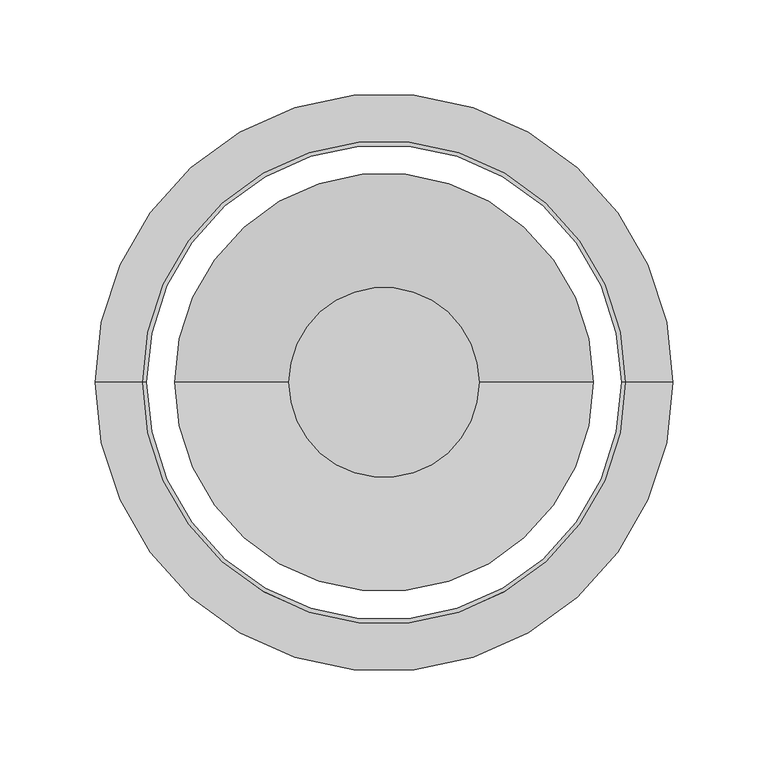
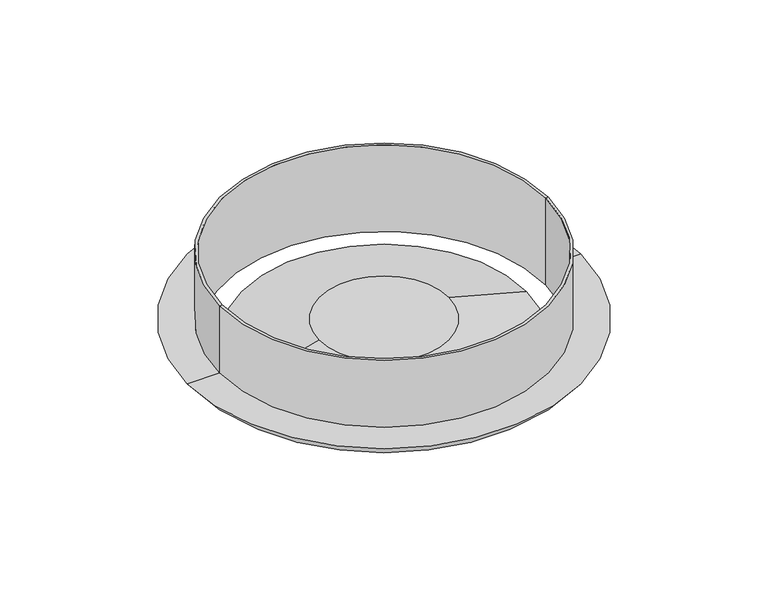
"""IFC4 building model written with IfcOpenShell, lengths in millimetres: air terminal geometry, ADSK_Диффузор_Круглый_Вытяжной : Ф250."""

from ifc_helpers import new_model, si_unit, point, frame, origin, origin_with_axes, place, context, project, spatial, polyline, circle_curve, ellipse_curve, trimmed, source, transform, mapped, element, save
from ifc_brep_helpers import plane_surface, cylinder_surface, revolved_surface, advanced_brep


def air_terminal_76ce87f1(model_context):
    return source(origin(), model_context, "Body", "AdvancedBrep", [
        advanced_brep(
        [(50.0, 0.0, 0.0), (-50.0, 0.0, 0.0), (110.0, 0.0, -16.0), (-110.0, 0.0, -16.0)],
        [
            (0, 1, circle_curve(frame((0.0, 0.0, 0.0), z_axis=(0.0, 0.0, 1.0), x_axis=(-1.0, 0.0, 0.0)), 50.0)),
            (1, 0, circle_curve(origin_with_axes(), 50.0)),
            (2, 3, circle_curve(frame((0.0, 0.0, -16.0), z_axis=(0.0, 0.0, -1.0), x_axis=(1.0, 0.0, 0.0)), 110.0)),
            (3, 2, circle_curve(frame((0.0, 0.0, -16.0), z_axis=(0.0, 0.0, -1.0), x_axis=(-1.0, 0.0, 0.0)), 110.0)),
            (2, 0),
            (1, 3),
        ],
        [
            plane_surface(frame((0.0, 0.0, 0.0), z_axis=(0.0, 0.0, 1.0), x_axis=(0.0, -1.0, 0.0))),
            plane_surface(frame((0.0, 0.0, -16.0), z_axis=(0.0, 0.0, -1.0), x_axis=(0.0, -1.0, 0.0))),
            revolved_surface(polyline([(49.99999993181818, 0.0, 0.0), (110.0, 0.0, -16.0)]), (0.0, 0.0, 13.3333333), (0.0, 0.0, -1.0)),
            revolved_surface(polyline([(-49.99999993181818, 0.0, 0.0), (-110.0, 0.0, -16.0)]), (0.0, 0.0, 13.3333333), (0.0, 0.0, -1.0)),
        ],
        [
            (0, [[1, 2]]),
            (1, [[3, 4]]),
            (2, [[5, -2, 6, -3]]),
            (3, [[-6, -1, -5, -4]]),
        ],
    ),
        advanced_brep(
        [(127.0, 0.0, 55.0), (125.0, 0.0, 55.0), (-125.0, 0.0, 55.0), (-127.0, 0.0, 55.0), (127.0, 0.0, 0.0), (-127.0, 0.0, 0.0), (125.0, 0.0, -16.0), (-125.0, 0.0, -16.0), (152.0, 0.0, 0.0), (-152.0, 0.0, 0.0)],
        [
            (0, 1),
            (1, 2, circle_curve(frame((0.0, 0.0, 55.0), z_axis=(0.0, 0.0, -1.0), x_axis=(-1.0, 0.0, 0.0)), 125.0)),
            (2, 3),
            (3, 0, circle_curve(frame((0.0, 0.0, 55.0), z_axis=(0.0, 0.0, 1.0), x_axis=(-1.0, 0.0, 0.0)), 127.0)),
            (2, 1, circle_curve(frame((0.0, 0.0, 55.0), z_axis=(0.0, 0.0, -1.0), x_axis=(-1.0, 0.0, 0.0)), 125.0)),
            (0, 3, circle_curve(frame((0.0, 0.0, 55.0), z_axis=(0.0, 0.0, 1.0), x_axis=(-1.0, 0.0, 0.0)), 127.0)),
            (4, 0),
            (3, 5),
            (5, 4, circle_curve(frame((0.0, 0.0, 0.0), z_axis=(0.0, 0.0, 1.0), x_axis=(-1.0, 0.0, 0.0)), 127.0)),
            (4, 5, circle_curve(frame((0.0, 0.0, 0.0), z_axis=(0.0, 0.0, 1.0), x_axis=(-1.0, 0.0, 0.0)), 127.0)),
            (1, 6),
            (6, 7, circle_curve(frame((0.0, 0.0, -16.0), z_axis=(0.0, 0.0, -1.0), x_axis=(-1.0, 0.0, 0.0)), 125.0)),
            (7, 2),
            (7, 6, circle_curve(frame((0.0, 0.0, -16.0), z_axis=(0.0, 0.0, -1.0), x_axis=(-1.0, 0.0, 0.0)), 125.0)),
            (8, 4),
            (5, 9),
            (9, 8, circle_curve(frame((0.0, 0.0, 0.0), z_axis=(0.0, 0.0, 1.0), x_axis=(-1.0, 0.0, 0.0)), 152.0)),
            (8, 9, circle_curve(frame((0.0, 0.0, 0.0), z_axis=(0.0, 0.0, 1.0), x_axis=(-1.0, 0.0, 0.0)), 152.0)),
            (6, 8, circle_curve(frame((122.6124436, 0.0, 18.8102514), z_axis=(0.0, -1.0, 0.0), x_axis=(-1.0, 0.0, 0.0)), 34.8920339)),
            (9, 7, circle_curve(frame((-122.6124436, 0.0, 18.8102514), z_axis=(0.0, -1.0, 0.0), x_axis=(1.0, 0.0, 0.0)), 34.8920339)),
        ],
        [
            plane_surface(frame((0.0, 0.0, 55.0), z_axis=(0.0, 0.0, 1.0), x_axis=(-1.0, 0.0, 0.0))),
            cylinder_surface(frame((0.0, 0.0, 70.0), z_axis=(0.0, 0.0, -1.0), x_axis=(-1.0, 0.0, 0.0)), 127.0),
            revolved_surface(polyline([(-125.0, 0.0, -16.0), (-125.0, 0.0, 55.0)]), (0.0, 0.0, 70.0), (0.0, 0.0, -1.0)),
            plane_surface(frame((0.0, 0.0, 0.0), z_axis=(0.0, 0.0, 1.0), x_axis=(-1.0, 0.0, 0.0))),
            revolved_surface(trimmed(ellipse_curve(frame((-122.6124436, 0.0, 18.8102514), z_axis=(0.0, -1.0, 0.0), x_axis=(1.0, 0.0, 0.0)), 34.8920339, 34.8920339), [point((-152.0, 0.0, 0.0))], [point((-125.0, 0.0, -16.0))], True, "CARTESIAN"), (0.0, 0.0, 70.0), (0.0, 0.0, -1.0)),
        ],
        [
            (0, [[1, 2, 3, 4]]),
            (0, [[-3, 5, -1, 6]]),
            (1, [[7, -4, 8, 9]]),
            (1, [[-8, -6, -7, 10]]),
            (2, [[11, 12, 13, -2]]),
            (2, [[-13, 14, -11, -5]]),
            (3, [[15, -9, 16, 17]]),
            (3, [[-16, -10, -15, 18]]),
            (4, [[19, -17, 20, -12]]),
            (4, [[-20, -18, -19, -14]]),
        ],
    ),
    ])


if __name__ == "__main__":
    model = new_model("IFC4")
    model_context = context("Model", 3, world=origin())
    ifc_project = project(units=[si_unit("LENGTHUNIT", "METRE", prefix="MILLI")], contexts=[model_context])
    site = spatial("IfcSite", under=ifc_project)
    building = spatial("IfcBuilding", under=site)
    placement = place(None, origin())
    air_terminal_shape = air_terminal_76ce87f1(model_context)
    element("IfcAirTerminal", 1, ObjectType="ADSK_Диффузор_Круглый_Вытяжной : Ф250", at=placement, inside=building, context=model_context, shape_type="MappedRepresentation", body=[
        mapped(air_terminal_shape, transform((0.0, 0.0, 0.0), x_axis=(1.0, 0.0, 0.0), y_axis=(0.0, 1.0, 0.0), z_axis=(0.0, 0.0, 1.0))),
    ])
    save(model, "model.ifc")
